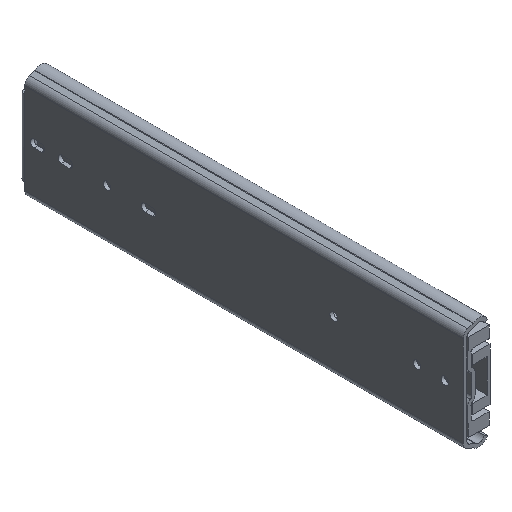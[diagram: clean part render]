
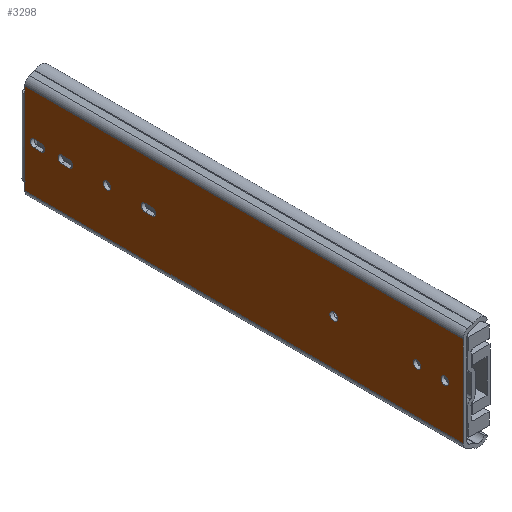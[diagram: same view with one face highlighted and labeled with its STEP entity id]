
A CAD part, isometric view. The second image highlights one B-rep face of the part: STEP entity #3298.
In plain terms, the highlighted planar face has unit normal (-1, 0, 0).
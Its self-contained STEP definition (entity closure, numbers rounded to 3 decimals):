
#156=CIRCLE('',#3945,2.6);
#158=CIRCLE('',#3948,2.6);
#160=CIRCLE('',#3951,2.6);
#163=CIRCLE('',#3956,2.6);
#165=CIRCLE('',#3960,2.6);
#166=CIRCLE('',#3962,2.6);
#169=CIRCLE('',#3967,2.619);
#171=CIRCLE('',#3971,2.619);
#174=CIRCLE('',#3977,2.6);
#177=CIRCLE('',#3988,2.6);
#1138=ORIENTED_EDGE('',*,*,#1659,.F.);
#1139=ORIENTED_EDGE('',*,*,#1618,.T.);
#1140=ORIENTED_EDGE('',*,*,#1622,.F.);
#1141=ORIENTED_EDGE('',*,*,#1657,.T.);
#1142=ORIENTED_EDGE('',*,*,#1636,.T.);
#1143=ORIENTED_EDGE('',*,*,#1634,.T.);
#1144=ORIENTED_EDGE('',*,*,#1631,.T.);
#1145=ORIENTED_EDGE('',*,*,#1628,.T.);
#1146=ORIENTED_EDGE('',*,*,#1611,.F.);
#1147=ORIENTED_EDGE('',*,*,#1608,.F.);
#1148=ORIENTED_EDGE('',*,*,#1617,.F.);
#1149=ORIENTED_EDGE('',*,*,#1614,.F.);
#1150=ORIENTED_EDGE('',*,*,#1604,.F.);
#1151=ORIENTED_EDGE('',*,*,#1602,.F.);
#1152=ORIENTED_EDGE('',*,*,#1600,.F.);
#1153=ORIENTED_EDGE('',*,*,#1643,.F.);
#1154=ORIENTED_EDGE('',*,*,#1660,.T.);
#1155=ORIENTED_EDGE('',*,*,#1584,.F.);
#1156=ORIENTED_EDGE('',*,*,#1649,.T.);
#1157=ORIENTED_EDGE('',*,*,#1532,.T.);
#1158=ORIENTED_EDGE('',*,*,#1599,.T.);
#1159=ORIENTED_EDGE('',*,*,#1546,.F.);
#1160=ORIENTED_EDGE('',*,*,#1571,.F.);
#1161=ORIENTED_EDGE('',*,*,#1548,.T.);
#1532=EDGE_CURVE('',#1898,#1897,#2237,.T.);
#1546=EDGE_CURVE('',#1908,#1907,#2244,.T.);
#1548=EDGE_CURVE('',#1911,#1910,#2245,.T.);
#1571=EDGE_CURVE('',#1911,#1908,#2260,.T.);
#1584=EDGE_CURVE('',#1936,#1937,#2267,.T.);
#1599=EDGE_CURVE('',#1897,#1907,#2277,.T.);
#1600=EDGE_CURVE('',#1945,#1945,#156,.T.);
#1602=EDGE_CURVE('',#1947,#1947,#158,.T.);
#1604=EDGE_CURVE('',#1949,#1949,#160,.T.);
#1608=EDGE_CURVE('',#1953,#1954,#2280,.T.);
#1611=EDGE_CURVE('',#1954,#1956,#163,.T.);
#1614=EDGE_CURVE('',#1956,#1958,#2284,.T.);
#1617=EDGE_CURVE('',#1958,#1953,#165,.T.);
#1618=EDGE_CURVE('',#1959,#1960,#166,.T.);
#1622=EDGE_CURVE('',#1963,#1960,#2288,.T.);
#1628=EDGE_CURVE('',#1966,#1968,#169,.T.);
#1631=EDGE_CURVE('',#1970,#1966,#2295,.T.);
#1634=EDGE_CURVE('',#1972,#1970,#171,.T.);
#1636=EDGE_CURVE('',#1968,#1972,#2298,.T.);
#1643=EDGE_CURVE('',#1979,#1979,#174,.T.);
#1649=EDGE_CURVE('',#1936,#1898,#2304,.T.);
#1657=EDGE_CURVE('',#1963,#1986,#177,.T.);
#1659=EDGE_CURVE('',#1959,#1986,#2310,.T.);
#1660=EDGE_CURVE('',#1910,#1937,#2311,.T.);
#1897=VERTEX_POINT('',#5628);
#1898=VERTEX_POINT('',#5630);
#1907=VERTEX_POINT('',#5655);
#1908=VERTEX_POINT('',#5657);
#1910=VERTEX_POINT('',#5662);
#1911=VERTEX_POINT('',#5664);
#1936=VERTEX_POINT('',#5734);
#1937=VERTEX_POINT('',#5736);
#1945=VERTEX_POINT('',#5767);
#1947=VERTEX_POINT('',#5772);
#1949=VERTEX_POINT('',#5777);
#1953=VERTEX_POINT('',#5785);
#1954=VERTEX_POINT('',#5787);
#1956=VERTEX_POINT('',#5793);
#1958=VERTEX_POINT('',#5799);
#1959=VERTEX_POINT('',#5806);
#1960=VERTEX_POINT('',#5807);
#1963=VERTEX_POINT('',#5815);
#1966=VERTEX_POINT('',#5822);
#1968=VERTEX_POINT('',#5826);
#1970=VERTEX_POINT('',#5831);
#1972=VERTEX_POINT('',#5837);
#1979=VERTEX_POINT('',#5858);
#1986=VERTEX_POINT('',#5886);
#2237=LINE('',#5629,#2568);
#2244=LINE('',#5658,#2575);
#2245=LINE('',#5663,#2576);
#2260=LINE('',#5710,#2591);
#2267=LINE('',#5735,#2598);
#2277=LINE('',#5764,#2608);
#2280=LINE('',#5786,#2611);
#2284=LINE('',#5798,#2615);
#2288=LINE('',#5814,#2619);
#2295=LINE('',#5833,#2626);
#2298=LINE('',#5842,#2629);
#2304=LINE('',#5873,#2635);
#2310=LINE('',#5889,#2641);
#2311=LINE('',#5891,#2642);
#2568=VECTOR('',#4657,1000.);
#2575=VECTOR('',#4686,1000.);
#2576=VECTOR('',#4691,1000.);
#2591=VECTOR('',#4736,1000.);
#2598=VECTOR('',#4761,1000.);
#2608=VECTOR('',#4793,1000.);
#2611=VECTOR('',#4816,1000.);
#2615=VECTOR('',#4828,1000.);
#2619=VECTOR('',#4846,1000.);
#2626=VECTOR('',#4861,1000.);
#2629=VECTOR('',#4872,1000.);
#2635=VECTOR('',#4898,1000.);
#2641=VECTOR('',#4918,1000.);
#2642=VECTOR('',#4921,1000.);
#2836=EDGE_LOOP('',(#1138,#1139,#1140,#1141));
#2837=EDGE_LOOP('',(#1142,#1143,#1144,#1145));
#2838=EDGE_LOOP('',(#1146,#1147,#1148,#1149));
#2839=EDGE_LOOP('',(#1150));
#2840=EDGE_LOOP('',(#1151));
#2841=EDGE_LOOP('',(#1152));
#2842=EDGE_LOOP('',(#1153));
#2843=EDGE_LOOP('',(#1154,#1155,#1156,#1157,#1158,#1159,#1160,#1161));
#3037=FACE_BOUND('',#2836,.T.);
#3038=FACE_BOUND('',#2837,.T.);
#3039=FACE_BOUND('',#2838,.T.);
#3040=FACE_BOUND('',#2839,.T.);
#3041=FACE_BOUND('',#2840,.T.);
#3042=FACE_BOUND('',#2841,.T.);
#3043=FACE_BOUND('',#2842,.T.);
#3044=FACE_BOUND('',#2843,.T.);
#3139=PLANE('',#3991);
#3298=ADVANCED_FACE('',(#3037,#3038,#3039,#3040,#3041,#3042,#3043,#3044),
#3139,.F.);
#3945=AXIS2_PLACEMENT_3D('',#5766,#4796,#4797);
#3948=AXIS2_PLACEMENT_3D('',#5771,#4802,#4803);
#3951=AXIS2_PLACEMENT_3D('',#5776,#4808,#4809);
#3956=AXIS2_PLACEMENT_3D('',#5792,#4822,#4823);
#3960=AXIS2_PLACEMENT_3D('',#5803,#4834,#4835);
#3962=AXIS2_PLACEMENT_3D('',#5805,#4838,#4839);
#3967=AXIS2_PLACEMENT_3D('',#5827,#4855,#4856);
#3971=AXIS2_PLACEMENT_3D('',#5839,#4867,#4868);
#3977=AXIS2_PLACEMENT_3D('',#5857,#4885,#4886);
#3988=AXIS2_PLACEMENT_3D('',#5885,#4913,#4914);
#3991=AXIS2_PLACEMENT_3D('',#5893,#4923,#4924);
#4657=DIRECTION('',(0.,-1.,0.));
#4686=DIRECTION('',(0.,1.,0.));
#4691=DIRECTION('',(0.,1.,0.));
#4736=DIRECTION('',(0.,0.,-1.));
#4761=DIRECTION('',(0.,-1.,0.));
#4793=DIRECTION('',(0.,0.,-1.));
#4796=DIRECTION('',(-1.,0.,0.));
#4797=DIRECTION('',(0.,1.,0.));
#4802=DIRECTION('',(-1.,0.,0.));
#4803=DIRECTION('',(0.,1.,0.));
#4808=DIRECTION('',(-1.,0.,0.));
#4809=DIRECTION('',(0.,1.,0.));
#4816=DIRECTION('',(0.,-1.,0.));
#4822=DIRECTION('',(-1.,0.,0.));
#4823=DIRECTION('',(0.,1.,0.));
#4828=DIRECTION('',(0.,1.,0.));
#4834=DIRECTION('',(-1.,0.,0.));
#4835=DIRECTION('',(0.,-1.,0.));
#4838=DIRECTION('',(1.,0.,0.));
#4839=DIRECTION('',(0.,0.,-1.));
#4846=DIRECTION('',(0.,1.,0.));
#4855=DIRECTION('',(1.,0.,0.));
#4856=DIRECTION('',(0.,0.,-1.));
#4861=DIRECTION('',(0.,1.,0.));
#4867=DIRECTION('',(1.,0.,0.));
#4868=DIRECTION('',(0.,0.,-1.));
#4872=DIRECTION('',(0.,-1.,0.));
#4885=DIRECTION('',(-1.,0.,0.));
#4886=DIRECTION('',(0.,1.,0.));
#4898=DIRECTION('',(0.,0.,-1.));
#4913=DIRECTION('',(1.,0.,0.));
#4914=DIRECTION('',(0.,0.,-1.));
#4918=DIRECTION('',(0.,-1.,0.));
#4921=DIRECTION('',(0.,0.,-1.));
#4923=DIRECTION('',(1.,0.,0.));
#4924=DIRECTION('',(0.,0.,-1.));
#5628=CARTESIAN_POINT('',(0.,300.8,-26.15));
#5629=CARTESIAN_POINT('',(0.,301.3,-26.15));
#5630=CARTESIAN_POINT('',(0.,301.3,-26.15));
#5655=CARTESIAN_POINT('',(0.,300.8,-31.142));
#5657=CARTESIAN_POINT('',(0.,0.,-31.142));
#5658=CARTESIAN_POINT('',(0.,0.,-31.142));
#5662=CARTESIAN_POINT('',(0.,300.8,31.132));
#5663=CARTESIAN_POINT('',(0.,0.,31.132));
#5664=CARTESIAN_POINT('',(0.,0.,31.132));
#5710=CARTESIAN_POINT('',(0.,0.,31.132));
#5734=CARTESIAN_POINT('',(0.,301.3,26.15));
#5735=CARTESIAN_POINT('',(0.,301.3,26.15));
#5736=CARTESIAN_POINT('',(0.,300.8,26.15));
#5764=CARTESIAN_POINT('',(0.,300.8,31.132));
#5766=CARTESIAN_POINT('',(0.,31.75,-0.006));
#5767=CARTESIAN_POINT('',(0.,34.35,-0.006));
#5771=CARTESIAN_POINT('',(0.,88.9,-0.006));
#5772=CARTESIAN_POINT('',(0.,91.5,-0.006));
#5776=CARTESIAN_POINT('',(0.,244.5,-0.006));
#5777=CARTESIAN_POINT('',(0.,247.1,-0.006));
#5785=CARTESIAN_POINT('',(0.,218.2,-2.605));
#5786=CARTESIAN_POINT('',(0.,218.2,-2.605));
#5787=CARTESIAN_POINT('',(0.,213.6,-2.605));
#5792=CARTESIAN_POINT('',(0.,213.6,-0.005));
#5793=CARTESIAN_POINT('',(0.,213.6,2.595));
#5798=CARTESIAN_POINT('',(0.,218.2,2.595));
#5799=CARTESIAN_POINT('',(0.,218.2,2.595));
#5803=CARTESIAN_POINT('',(0.,218.2,-0.005));
#5805=CARTESIAN_POINT('',(0.,294.4,-0.006));
#5806=CARTESIAN_POINT('',(0.,294.4,-2.606));
#5807=CARTESIAN_POINT('',(0.,294.4,2.594));
#5814=CARTESIAN_POINT('',(0.,0.,2.594));
#5815=CARTESIAN_POINT('',(0.,289.8,2.594));
#5822=CARTESIAN_POINT('',(0.,275.699,-2.606));
#5826=CARTESIAN_POINT('',(0.,275.699,2.594));
#5827=CARTESIAN_POINT('',(0.,275.381,-0.006));
#5831=CARTESIAN_POINT('',(0.,270.501,-2.606));
#5833=CARTESIAN_POINT('',(0.,0.,-2.606));
#5837=CARTESIAN_POINT('',(0.,270.501,2.594));
#5839=CARTESIAN_POINT('',(0.,270.819,-0.006));
#5842=CARTESIAN_POINT('',(0.,0.,2.594));
#5857=CARTESIAN_POINT('',(0.,12.7,-0.006));
#5858=CARTESIAN_POINT('',(0.,15.3,-0.006));
#5873=CARTESIAN_POINT('',(0.,301.3,26.15));
#5885=CARTESIAN_POINT('',(0.,289.8,-0.006));
#5886=CARTESIAN_POINT('',(0.,289.8,-2.606));
#5889=CARTESIAN_POINT('',(0.,0.,-2.606));
#5891=CARTESIAN_POINT('',(0.,300.8,31.132));
#5893=CARTESIAN_POINT('',(0.,0.,31.132));
